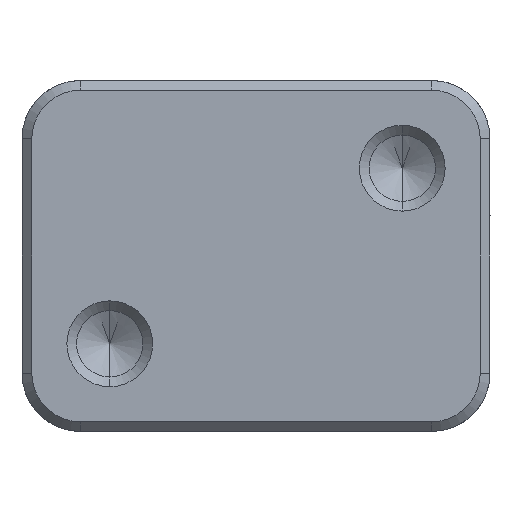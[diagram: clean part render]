
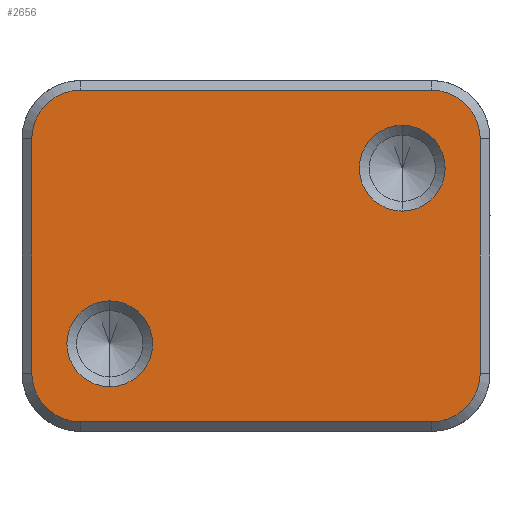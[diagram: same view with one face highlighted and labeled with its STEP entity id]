
A CAD part, front view. The second image highlights one B-rep face of the part: STEP entity #2656.
In plain terms, the highlighted planar face has unit normal (0, -1, 0).
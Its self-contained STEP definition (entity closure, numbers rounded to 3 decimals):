
#100 = DIRECTION ( 'NONE',  ( 0., 0., 1. ) ) ;
#379 = CIRCLE ( 'NONE', #9893, 4.999 ) ;
#431 = VERTEX_POINT ( 'NONE', #8941 ) ;
#523 = CARTESIAN_POINT ( 'NONE',  ( 18., 0., 11.993 ) ) ;
#793 = DIRECTION ( 'NONE',  ( 0., 0., 1. ) ) ;
#806 = EDGE_CURVE ( 'NONE', #4145, #13031, #8576, .T. ) ;
#916 = AXIS2_PLACEMENT_3D ( 'NONE', #11348, #1587, #9002 ) ;
#930 = EDGE_CURVE ( 'NONE', #10121, #12284, #13355, .T. ) ;
#1025 = CARTESIAN_POINT ( 'NONE',  ( -195.7, 0., -17.009 ) ) ;
#1308 = AXIS2_PLACEMENT_3D ( 'NONE', #4649, #11829, #793 ) ;
#1355 = DIRECTION ( 'NONE',  ( -1., 0., 0. ) ) ;
#1587 = DIRECTION ( 'NONE',  ( 0., -1., 0. ) ) ;
#1741 = ORIENTED_EDGE ( 'NONE', *, *, #7323, .T. ) ;
#1913 = CARTESIAN_POINT ( 'NONE',  ( 15., 0., 8.993 ) ) ;
#1928 = CARTESIAN_POINT ( 'NONE',  ( 18., 0., 16.992 ) ) ;
#2086 = DIRECTION ( 'NONE',  ( 0., 0., -1. ) ) ;
#2476 = DIRECTION ( 'NONE',  ( 0., 0., -1. ) ) ;
#2490 = LINE ( 'NONE', #8766, #5800 ) ;
#2527 = DIRECTION ( 'NONE',  ( 0., 0., 1. ) ) ;
#2548 = CIRCLE ( 'NONE', #8186, 4.4 ) ;
#2633 = DIRECTION ( 'NONE',  ( 0., 1., 0. ) ) ;
#2656 = ADVANCED_FACE ( 'NONE', ( #4576, #15791, #9494 ), #13370, .T. ) ;
#2776 = ORIENTED_EDGE ( 'NONE', *, *, #930, .T. ) ;
#2796 = DIRECTION ( 'NONE',  ( 0., 0., -1. ) ) ;
#2995 = VERTEX_POINT ( 'NONE', #8693 ) ;
#3434 = EDGE_CURVE ( 'NONE', #13906, #6277, #379, .T. ) ;
#3438 = VECTOR ( 'NONE', #10598, 1000. ) ;
#3476 = ORIENTED_EDGE ( 'NONE', *, *, #11335, .T. ) ;
#3625 = EDGE_CURVE ( 'NONE', #5178, #15224, #9631, .T. ) ;
#3642 = CARTESIAN_POINT ( 'NONE',  ( 23., 0., 17.992 ) ) ;
#4145 = VERTEX_POINT ( 'NONE', #11945 ) ;
#4268 = CIRCLE ( 'NONE', #13272, 4.4 ) ;
#4498 = EDGE_CURVE ( 'NONE', #12284, #9921, #12758, .T. ) ;
#4499 = CARTESIAN_POINT ( 'NONE',  ( 15., 0., 8.993 ) ) ;
#4521 = ORIENTED_EDGE ( 'NONE', *, *, #7117, .T. ) ;
#4576 = FACE_OUTER_BOUND ( 'NONE', #9298, .T. ) ;
#4649 = CARTESIAN_POINT ( 'NONE',  ( -18., 0., -12.009 ) ) ;
#4829 = ORIENTED_EDGE ( 'NONE', *, *, #3434, .T. ) ;
#4837 = ORIENTED_EDGE ( 'NONE', *, *, #14510, .T. ) ;
#4849 = ORIENTED_EDGE ( 'NONE', *, *, #12565, .T. ) ;
#5178 = VERTEX_POINT ( 'NONE', #12015 ) ;
#5449 = DIRECTION ( 'NONE',  ( 0., 1., 0. ) ) ;
#5469 = DIRECTION ( 'NONE',  ( 0., 1., 0. ) ) ;
#5800 = VECTOR ( 'NONE', #1355, 1000. ) ;
#6277 = VERTEX_POINT ( 'NONE', #1928 ) ;
#6525 = EDGE_CURVE ( 'NONE', #6277, #5178, #2490, .T. ) ;
#7024 = AXIS2_PLACEMENT_3D ( 'NONE', #1913, #5449, #10451 ) ;
#7080 = ORIENTED_EDGE ( 'NONE', *, *, #806, .T. ) ;
#7117 = EDGE_CURVE ( 'NONE', #8954, #431, #4268, .T. ) ;
#7149 = DIRECTION ( 'NONE',  ( 1., 0., 0. ) ) ;
#7292 = EDGE_CURVE ( 'NONE', #431, #8954, #12741, .T. ) ;
#7297 = CARTESIAN_POINT ( 'NONE',  ( -15., 0., -9.009 ) ) ;
#7323 = EDGE_CURVE ( 'NONE', #15224, #2995, #9885, .T. ) ;
#7468 = DIRECTION ( 'NONE',  ( 0., 1., 0. ) ) ;
#7855 = VECTOR ( 'NONE', #2796, 1000. ) ;
#8186 = AXIS2_PLACEMENT_3D ( 'NONE', #4499, #5469, #2086 ) ;
#8576 = CIRCLE ( 'NONE', #7024, 4.4 ) ;
#8677 = CARTESIAN_POINT ( 'NONE',  ( -15., 0., -9.009 ) ) ;
#8684 = ORIENTED_EDGE ( 'NONE', *, *, #4498, .T. ) ;
#8693 = CARTESIAN_POINT ( 'NONE',  ( -23., 0., -12.009 ) ) ;
#8731 = CARTESIAN_POINT ( 'NONE',  ( -18., 0., -17.009 ) ) ;
#8747 = CARTESIAN_POINT ( 'NONE',  ( 23., 0., -12.009 ) ) ;
#8766 = CARTESIAN_POINT ( 'NONE',  ( 24., 0., 16.992 ) ) ;
#8941 = CARTESIAN_POINT ( 'NONE',  ( -15., 0., -4.609 ) ) ;
#8954 = VERTEX_POINT ( 'NONE', #9406 ) ;
#9002 = DIRECTION ( 'NONE',  ( 0., 0., 1. ) ) ;
#9128 = EDGE_LOOP ( 'NONE', ( #4837, #7080 ) ) ;
#9298 = EDGE_LOOP ( 'NONE', ( #10980, #1741, #4849, #2776, #8684, #3476, #4829, #14627 ) ) ;
#9406 = CARTESIAN_POINT ( 'NONE',  ( -15., 0., -13.409 ) ) ;
#9494 = FACE_BOUND ( 'NONE', #9128, .T. ) ;
#9631 = CIRCLE ( 'NONE', #15821, 4.999 ) ;
#9885 = LINE ( 'NONE', #12470, #7855 ) ;
#9893 = AXIS2_PLACEMENT_3D ( 'NONE', #523, #15501, #12771 ) ;
#9921 = VERTEX_POINT ( 'NONE', #8747 ) ;
#10121 = VERTEX_POINT ( 'NONE', #8731 ) ;
#10322 = CARTESIAN_POINT ( 'NONE',  ( 15., 0., 4.593 ) ) ;
#10451 = DIRECTION ( 'NONE',  ( 0., 0., -1. ) ) ;
#10454 = ORIENTED_EDGE ( 'NONE', *, *, #7292, .T. ) ;
#10475 = CARTESIAN_POINT ( 'NONE',  ( 18., 0., -17.009 ) ) ;
#10598 = DIRECTION ( 'NONE',  ( 1., 0., 0. ) ) ;
#10980 = ORIENTED_EDGE ( 'NONE', *, *, #3625, .T. ) ;
#11335 = EDGE_CURVE ( 'NONE', #9921, #13906, #13558, .T. ) ;
#11348 = CARTESIAN_POINT ( 'NONE',  ( 18., 0., -12.009 ) ) ;
#11771 = CARTESIAN_POINT ( 'NONE',  ( -23., 0., 11.993 ) ) ;
#11829 = DIRECTION ( 'NONE',  ( 0., -1., 0. ) ) ;
#11889 = CARTESIAN_POINT ( 'NONE',  ( 23., 0., 11.993 ) ) ;
#11945 = CARTESIAN_POINT ( 'NONE',  ( 15., 0., 13.393 ) ) ;
#12015 = CARTESIAN_POINT ( 'NONE',  ( -18., 0., 16.992 ) ) ;
#12223 = AXIS2_PLACEMENT_3D ( 'NONE', #8677, #2633, #2476 ) ;
#12224 = DIRECTION ( 'NONE',  ( 0., 0., -1. ) ) ;
#12284 = VERTEX_POINT ( 'NONE', #10475 ) ;
#12470 = CARTESIAN_POINT ( 'NONE',  ( -23., 0., 17.992 ) ) ;
#12565 = EDGE_CURVE ( 'NONE', #2995, #10121, #13655, .T. ) ;
#12741 = CIRCLE ( 'NONE', #12223, 4.4 ) ;
#12758 = CIRCLE ( 'NONE', #916, 4.999 ) ;
#12771 = DIRECTION ( 'NONE',  ( 0., 0., 1. ) ) ;
#12835 = VECTOR ( 'NONE', #100, 1000. ) ;
#13031 = VERTEX_POINT ( 'NONE', #10322 ) ;
#13272 = AXIS2_PLACEMENT_3D ( 'NONE', #7297, #7468, #12224 ) ;
#13283 = CARTESIAN_POINT ( 'NONE',  ( 24., 0., 17.992 ) ) ;
#13355 = LINE ( 'NONE', #1025, #3438 ) ;
#13370 = PLANE ( 'NONE',  #13999 ) ;
#13558 = LINE ( 'NONE', #3642, #12835 ) ;
#13573 = DIRECTION ( 'NONE',  ( 0., -1., 0. ) ) ;
#13633 = EDGE_LOOP ( 'NONE', ( #4521, #10454 ) ) ;
#13655 = CIRCLE ( 'NONE', #1308, 4.999 ) ;
#13906 = VERTEX_POINT ( 'NONE', #11889 ) ;
#13999 = AXIS2_PLACEMENT_3D ( 'NONE', #13283, #15542, #7149 ) ;
#14510 = EDGE_CURVE ( 'NONE', #13031, #4145, #2548, .T. ) ;
#14627 = ORIENTED_EDGE ( 'NONE', *, *, #6525, .T. ) ;
#14784 = CARTESIAN_POINT ( 'NONE',  ( -18., 0., 11.993 ) ) ;
#15224 = VERTEX_POINT ( 'NONE', #11771 ) ;
#15501 = DIRECTION ( 'NONE',  ( 0., -1., 0. ) ) ;
#15542 = DIRECTION ( 'NONE',  ( 0., -1., 0. ) ) ;
#15791 = FACE_BOUND ( 'NONE', #13633, .T. ) ;
#15821 = AXIS2_PLACEMENT_3D ( 'NONE', #14784, #13573, #2527 ) ;
